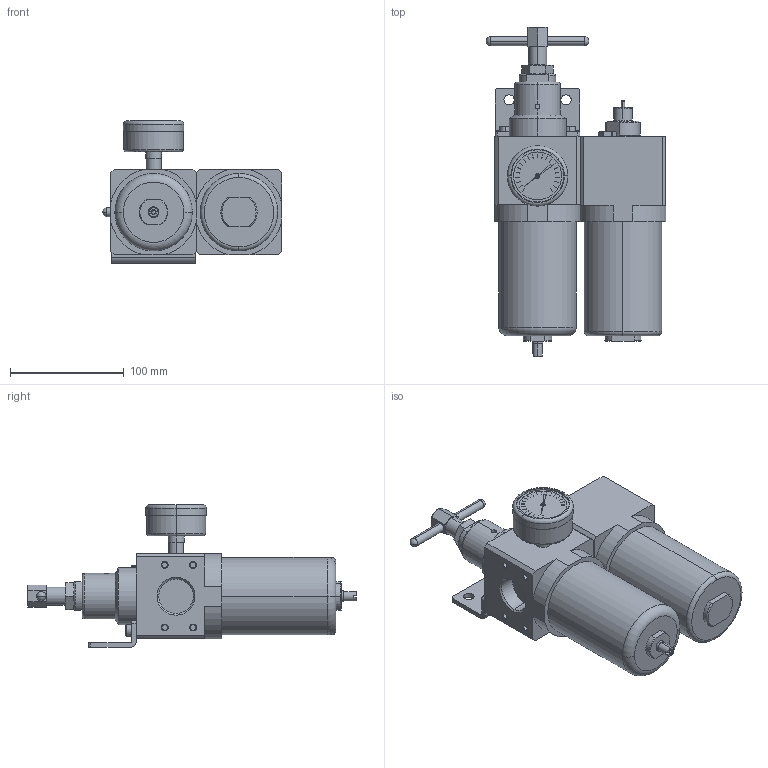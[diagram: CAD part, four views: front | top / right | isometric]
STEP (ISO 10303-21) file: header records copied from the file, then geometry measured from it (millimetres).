
FILE_DESCRIPTION (( 'STEP AP203' ), '1' );
FILE_NAME ('FRL500S-N10-D.STEP', '2022-04-19T10:21:41', ( '' ), ( '' ), 'SwSTEP 2.0', 'SolidWorks 2019', '' );
FILE_SCHEMA (( 'CONFIG_CONTROL_DESIGN' ));
Length unit declared in the file: millimetre
Products named in the file (1): FRL500S-N10-D
Bounding box: 157.5 x 289 x 125 mm (x, y, z)
Volume: 1671913.4 mm3; surface area: 155717.4 mm2
Topology: 6 solids, 7 shells, 559 faces, 1301 edges, 827 vertices
Faces by surface type: plane 218, cylinder 205, cone 110, torus 22, sphere 4
Entity records: 17049 total; most frequent: CARTESIAN_POINT 3868, DIRECTION 2894, ORIENTED_EDGE 2594, EDGE_CURVE 1297, AXIS2_PLACEMENT_3D 1141, VERTEX_POINT 827, EDGE_LOOP 654, LINE 612
